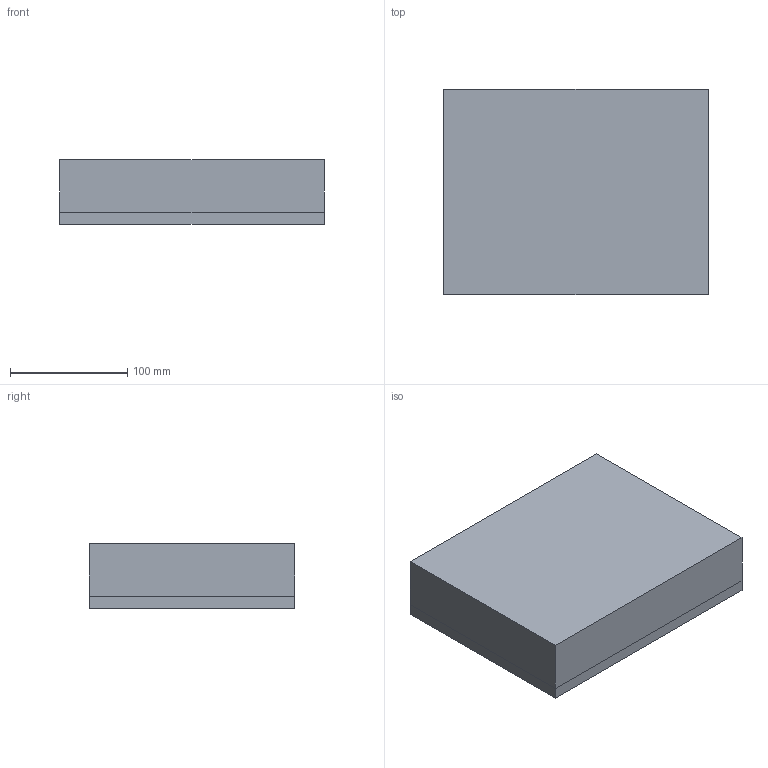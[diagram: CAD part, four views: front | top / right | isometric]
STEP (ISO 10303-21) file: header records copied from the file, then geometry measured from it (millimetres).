
FILE_DESCRIPTION(('CATIA V5 STEP Exchange'),'2;1');
FILE_NAME('C:\_Andres\UNIVERSIDAD\IQS\ASIGNATURAS\DAO\Controles\1920\c2\c2-Garcia_Granada_Andres.stp','2020-02-10T15:38:54+00:00',('none'),('none'),'CATIA Version 5 Release 19 SP 3 (IN-10)','CATIA V5 STEP AP203','none');
FILE_SCHEMA(('CONFIG_CONTROL_DESIGN'));
Length unit declared in the file: millimetre
Products named in the file (1): c2-Garcia_Granada_Andres
Bounding box: 225 x 175 x 55 mm (x, y, z)
Surface area: 313335.2 mm2
Topology: 3 solids, 3 shells, 103 faces, 232 edges, 128 vertices
Faces by surface type: cylinder 40, plane 27, bspline 24, sphere 12
Entity records: 3348 total; most frequent: CARTESIAN_POINT 1636, ORIENTED_EDGE 440, DIRECTION 224, EDGE_CURVE 164, EDGE_LOOP 110, ADVANCED_FACE 103, FACE_OUTER_BOUND 103, AXIS2_PLACEMENT_3D 96
